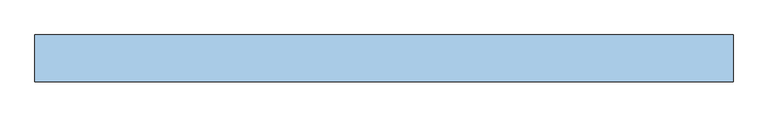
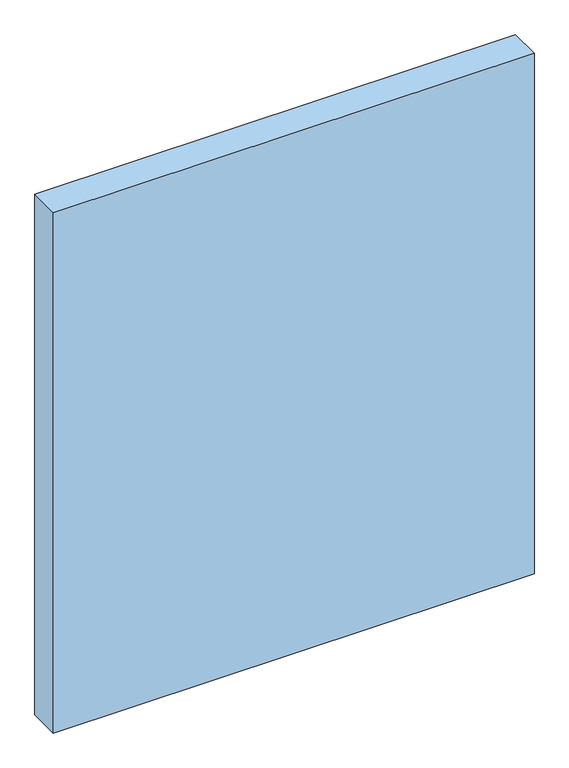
"""IFC4 building model written with IfcOpenShell, lengths in millimetres: window geometry, Dr_Проем-Четверти_об модель : ОК."""

from ifc_helpers import new_model, si_unit, frame, origin, place, context, project, spatial, polyline, outline, extrude, source, transform, mapped, element, save


def window_eb754195(model_context):
    return source(origin(), model_context, "Body", "SweptSolid", [
        extrude(outline(polyline([(1630.0, 100.0), (1630.0, -100.0), (-1360.0, -100.0), (-1360.0, 100.0), (1630.0, 100.0)])), frame((0.0, 0.0, -250.0), z_axis=(0.0, 0.0, 1.0), x_axis=(1.0, 0.0, 0.0)), (0.0, 0.0, 1.0), 3420.0),
    ])


if __name__ == "__main__":
    model = new_model("IFC4")
    model_context = context("Model", 3, world=origin())
    ifc_project = project(units=[si_unit("LENGTHUNIT", "METRE", prefix="MILLI")], contexts=[model_context])
    site = spatial("IfcSite", under=ifc_project)
    building = spatial("IfcBuilding", under=site)
    placement = place(None, origin())
    window_shape = window_eb754195(model_context)
    element("IfcWindow", 1, ObjectType="Dr_Проем-Четверти_об модель : ОК", at=placement, inside=building, context=model_context, shape_type="MappedRepresentation", body=[
        mapped(window_shape, transform((0.0, 0.0, 0.0), x_axis=(1.0, 0.0, 0.0), y_axis=(0.0, 1.0, 0.0), z_axis=(0.0, 0.0, 1.0))),
    ])
    save(model, "model.ifc")
